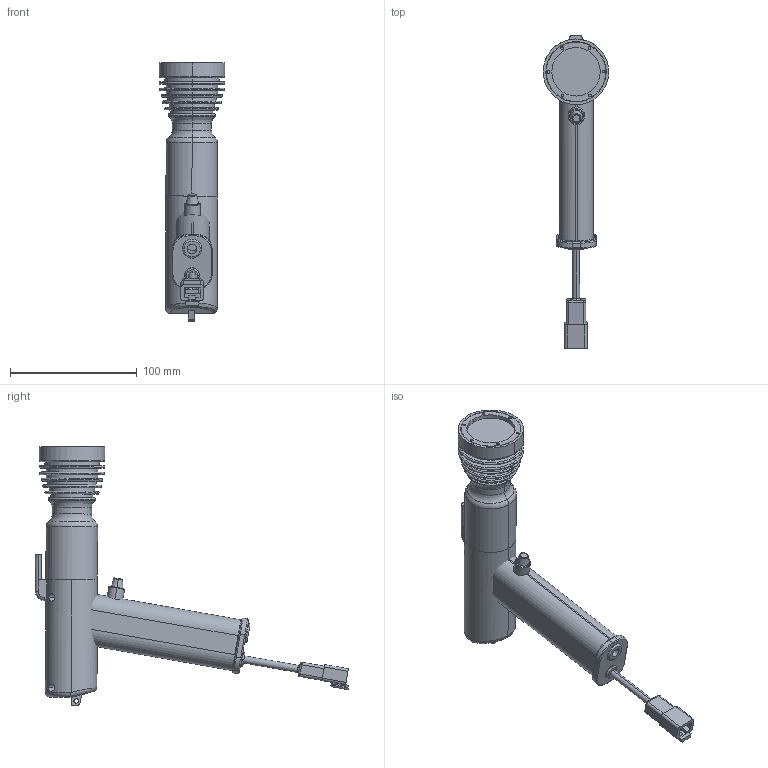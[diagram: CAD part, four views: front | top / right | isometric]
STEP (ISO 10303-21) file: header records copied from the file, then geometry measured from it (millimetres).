
FILE_DESCRIPTION (( 'STEP AP214' ), '1' );
FILE_NAME ('HL-85-10W1.STEP', '2010-09-18T01:28:25', ( 'Owner' ), ( 'HOME' ), 'SwSTEP 2.0', 'SolidWorks 2008', '' );
FILE_SCHEMA (( 'AUTOMOTIVE_DESIGN' ));
Length unit declared in the file: inch
Products named in the file (5): Wired lens; Wired handle; Wired Top; Cord; HL-85-10W1
Assembly tree (4 placements, depth 2):
  HL-85-10W1
    Wired handle
    Wired lens
    Cord
    Wired Top
Bounding box: 51.87 x 247.5 x 204.36 mm (x, y, z)
Volume: 384190 mm3; surface area: 63082.7 mm2
Topology: 4 solids, 4 shells, 276 faces, 617 edges, 380 vertices
Faces by surface type: cylinder 110, plane 94, torus 66, cone 2, sphere 2, bspline 2
Entity records: 8378 total; most frequent: CARTESIAN_POINT 1816, DIRECTION 1485, ORIENTED_EDGE 1230, AXIS2_PLACEMENT_3D 617, EDGE_CURVE 615, VERTEX_POINT 380, CIRCLE 336, EDGE_LOOP 311
